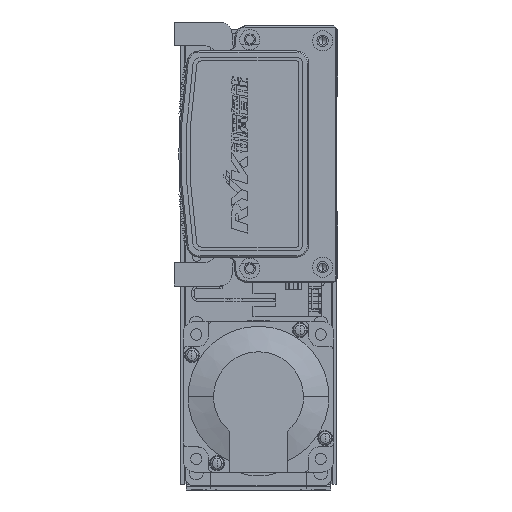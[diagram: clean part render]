
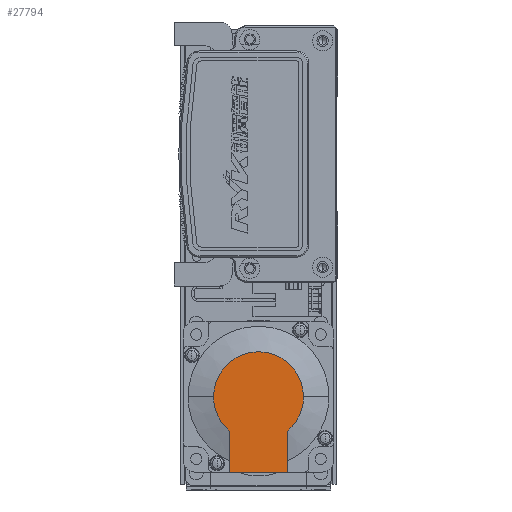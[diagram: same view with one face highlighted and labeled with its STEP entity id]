
A CAD part, left-side view. The second image highlights one B-rep face of the part: STEP entity #27794.
In plain terms, the highlighted planar face has unit normal (-1, 0, 0).
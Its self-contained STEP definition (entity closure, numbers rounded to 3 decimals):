
#767 = DIRECTION ( 'NONE',  ( 0., -1., 0. ) ) ;
#1740 = CARTESIAN_POINT ( 'NONE',  ( -99., 30., -11.45 ) ) ;
#7286 = VECTOR ( 'NONE', #65867, 1000. ) ;
#9545 = EDGE_CURVE ( 'NONE', #64636, #55102, #75412, .T. ) ;
#10660 = CARTESIAN_POINT ( 'NONE',  ( -99., 13.735, 11.45 ) ) ;
#11619 = EDGE_CURVE ( 'NONE', #52141, #63870, #34253, .T. ) ;
#14414 = CARTESIAN_POINT ( 'NONE',  ( -99., 0., 0. ) ) ;
#15144 = CARTESIAN_POINT ( 'NONE',  ( -99., 13.735, -11.45 ) ) ;
#15746 = CARTESIAN_POINT ( 'NONE',  ( -99., 0., 11.45 ) ) ;
#16245 = VERTEX_POINT ( 'NONE', #1740 ) ;
#17048 = AXIS2_PLACEMENT_3D ( 'NONE', #14414, #44905, #69001 ) ;
#17634 = DIRECTION ( 'NONE',  ( -1., 0., 0. ) ) ;
#19754 = CARTESIAN_POINT ( 'NONE',  ( -99., -8.941, -11.45 ) ) ;
#21005 = DIRECTION ( 'NONE',  ( -1., 0., 0. ) ) ;
#23690 = DIRECTION ( 'NONE',  ( 0., 0., -1. ) ) ;
#25158 = AXIS2_PLACEMENT_3D ( 'NONE', #59761, #17634, #23690 ) ;
#25748 = EDGE_CURVE ( 'NONE', #16245, #64636, #31064, .T. ) ;
#26155 = EDGE_CURVE ( 'NONE', #16245, #42274, #67050, .T. ) ;
#27359 = PLANE ( 'NONE',  #66758 ) ;
#27794 = ADVANCED_FACE ( 'NONE', ( #53497 ), #27359, .T. ) ;
#29995 = EDGE_LOOP ( 'NONE', ( #40400, #66464, #59601, #71976, #40349, #76640 ) ) ;
#31064 = LINE ( 'NONE', #19754, #42488 ) ;
#33278 = DIRECTION ( 'NONE',  ( -1., 0., 0. ) ) ;
#34253 = CIRCLE ( 'NONE', #56743, 17.881 ) ;
#40145 = CARTESIAN_POINT ( 'NONE',  ( -99., 0., 0. ) ) ;
#40349 = ORIENTED_EDGE ( 'NONE', *, *, #43514, .F. ) ;
#40400 = ORIENTED_EDGE ( 'NONE', *, *, #25748, .T. ) ;
#41010 = CARTESIAN_POINT ( 'NONE',  ( -99., 0., 17.881 ) ) ;
#42274 = VERTEX_POINT ( 'NONE', #46142 ) ;
#42488 = VECTOR ( 'NONE', #767, 1000. ) ;
#43514 = EDGE_CURVE ( 'NONE', #42274, #63870, #46060, .T. ) ;
#44905 = DIRECTION ( 'NONE',  ( -1., 0., 0. ) ) ;
#46060 = LINE ( 'NONE', #15746, #50786 ) ;
#46142 = CARTESIAN_POINT ( 'NONE',  ( -99., 30., 11.45 ) ) ;
#47691 = CARTESIAN_POINT ( 'NONE',  ( -99., 0., -17.881 ) ) ;
#50786 = VECTOR ( 'NONE', #57903, 1000. ) ;
#51548 = DIRECTION ( 'NONE',  ( 0., 0., -1. ) ) ;
#52141 = VERTEX_POINT ( 'NONE', #41010 ) ;
#53497 = FACE_OUTER_BOUND ( 'NONE', #29995, .T. ) ;
#55102 = VERTEX_POINT ( 'NONE', #47691 ) ;
#56743 = AXIS2_PLACEMENT_3D ( 'NONE', #40145, #33278, #51548 ) ;
#56754 = EDGE_CURVE ( 'NONE', #55102, #52141, #57279, .T. ) ;
#57279 = CIRCLE ( 'NONE', #25158, 17.881 ) ;
#57903 = DIRECTION ( 'NONE',  ( 0., -1., 0. ) ) ;
#58117 = DIRECTION ( 'NONE',  ( 0., 0., 1. ) ) ;
#59601 = ORIENTED_EDGE ( 'NONE', *, *, #56754, .T. ) ;
#59761 = CARTESIAN_POINT ( 'NONE',  ( -99., 0., 0. ) ) ;
#63691 = CARTESIAN_POINT ( 'NONE',  ( -99., -8.941, 0. ) ) ;
#63870 = VERTEX_POINT ( 'NONE', #10660 ) ;
#64636 = VERTEX_POINT ( 'NONE', #15144 ) ;
#65867 = DIRECTION ( 'NONE',  ( 0., 0., 1. ) ) ;
#66464 = ORIENTED_EDGE ( 'NONE', *, *, #9545, .T. ) ;
#66758 = AXIS2_PLACEMENT_3D ( 'NONE', #63691, #21005, #58117 ) ;
#67050 = LINE ( 'NONE', #78070, #7286 ) ;
#69001 = DIRECTION ( 'NONE',  ( 0., 0., -1. ) ) ;
#71976 = ORIENTED_EDGE ( 'NONE', *, *, #11619, .T. ) ;
#75412 = CIRCLE ( 'NONE', #17048, 17.881 ) ;
#76640 = ORIENTED_EDGE ( 'NONE', *, *, #26155, .F. ) ;
#78070 = CARTESIAN_POINT ( 'NONE',  ( -99., 30., 25. ) ) ;
